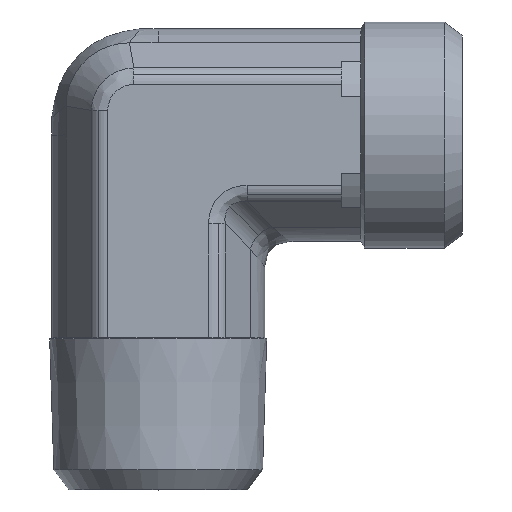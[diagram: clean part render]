
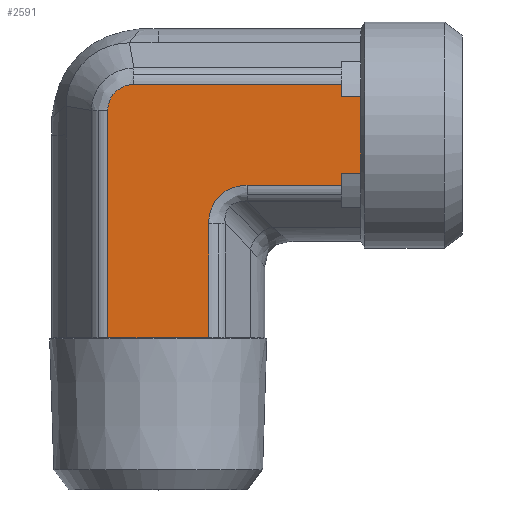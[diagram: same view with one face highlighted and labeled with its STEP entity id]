
A CAD part, top view. The second image highlights one B-rep face of the part: STEP entity #2591.
In plain terms, the highlighted planar face has unit normal (0, 0, 1) as drawn and (0, -1, 0) by its records, which use the part's own axes.
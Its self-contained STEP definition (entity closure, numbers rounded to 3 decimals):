
#361=CARTESIAN_POINT('',(2.515,-8.4,3.984));
#362=VERTEX_POINT('',#361);
#370=CARTESIAN_POINT('',(11.5,-8.4,3.984));
#371=VERTEX_POINT('',#370);
#372=CARTESIAN_POINT('',(2.515,-8.4,3.984));
#373=DIRECTION('',(1.0,0.0,0.0));
#374=VECTOR('',#373,8.985);
#375=LINE('',#372,#374);
#376=EDGE_CURVE('',#362,#371,#375,.T.);
#485=CARTESIAN_POINT('',(-8.484,-8.4,-1.926));
#486=VERTEX_POINT('',#485);
#494=CARTESIAN_POINT('',(-8.484,-8.4,14.5));
#495=VERTEX_POINT('',#494);
#496=CARTESIAN_POINT('',(-8.484,-8.4,-1.926));
#497=DIRECTION('',(0.0,0.0,1.0));
#498=VECTOR('',#497,16.426);
#499=LINE('',#496,#498);
#500=EDGE_CURVE('',#486,#495,#499,.T.);
#711=CARTESIAN_POINT('',(11.5,-8.4,0.));
#712=VERTEX_POINT('',#711);
#2007=CARTESIAN_POINT('',(-0.516,-8.4,14.5));
#2008=VERTEX_POINT('',#2007);
#2009=CARTESIAN_POINT('',(-1.484,-8.4,14.5));
#2010=VERTEX_POINT('',#2009);
#2011=CARTESIAN_POINT('',(-0.516,-8.4,14.5));
#2012=DIRECTION('',(-1.0,0.0,0.0));
#2013=VECTOR('',#2012,0.968);
#2014=LINE('',#2011,#2013);
#2015=EDGE_CURVE('',#2008,#2010,#2014,.T.);
#2066=CARTESIAN_POINT('',(-7.516,-8.4,14.5));
#2067=VERTEX_POINT('',#2066);
#2068=CARTESIAN_POINT('',(-7.516,-8.4,14.5));
#2069=DIRECTION('',(-1.0,0.0,0.0));
#2070=VECTOR('',#2069,0.968);
#2071=LINE('',#2068,#2070);
#2072=EDGE_CURVE('',#2067,#495,#2071,.T.);
#2171=CARTESIAN_POINT('',(-1.484,-8.4,16.0));
#2172=VERTEX_POINT('',#2171);
#2173=CARTESIAN_POINT('',(-1.484,-8.4,14.5));
#2174=DIRECTION('',(0.0,0.0,1.0));
#2175=VECTOR('',#2174,1.5);
#2176=LINE('',#2173,#2175);
#2177=EDGE_CURVE('',#2010,#2172,#2176,.T.);
#2212=CARTESIAN_POINT('',(-7.516,-8.4,16.0));
#2213=VERTEX_POINT('',#2212);
#2214=CARTESIAN_POINT('',(-7.516,-8.4,16.0));
#2215=DIRECTION('',(0.0,0.0,-1.0));
#2216=VECTOR('',#2215,1.5);
#2217=LINE('',#2214,#2216);
#2218=EDGE_CURVE('',#2213,#2067,#2217,.T.);
#2497=CARTESIAN_POINT('',(-4.5,-8.4,16.0));
#2498=VERTEX_POINT('',#2497);
#2499=CARTESIAN_POINT('',(-4.5,-8.4,16.0));
#2500=DIRECTION('',(-1.0,0.0,0.0));
#2501=VECTOR('',#2500,3.016);
#2502=LINE('',#2499,#2501);
#2503=EDGE_CURVE('',#2498,#2213,#2502,.T.);
#2521=CARTESIAN_POINT('',(-4.5,-8.4,-3.175));
#2522=DIRECTION('',(0.0,-1.0,0.0));
#2523=DIRECTION('',(0.0,0.0,-1.0));
#2524=AXIS2_PLACEMENT_3D('',#2521,#2522,#2523);
#2525=PLANE('',#2524);
#2526=ORIENTED_EDGE('',*,*,#2218,.T.);
#2527=ORIENTED_EDGE('',*,*,#2072,.T.);
#2528=ORIENTED_EDGE('',*,*,#500,.F.);
#2529=CARTESIAN_POINT('',(-6.426,-8.4,-3.984));
#2530=VERTEX_POINT('',#2529);
#2531=CARTESIAN_POINT('',(-8.484,-8.4,-1.926));
#2532=CARTESIAN_POINT('',(-8.484,-8.4,-2.06));
#2533=CARTESIAN_POINT('',(-8.47,-8.4,-2.195));
#2534=CARTESIAN_POINT('',(-8.402,-8.4,-2.54));
#2535=CARTESIAN_POINT('',(-8.326,-8.4,-2.743));
#2536=CARTESIAN_POINT('',(-8.051,-8.4,-3.233));
#2537=CARTESIAN_POINT('',(-7.806,-8.4,-3.49));
#2538=CARTESIAN_POINT('',(-7.186,-8.4,-3.876));
#2539=CARTESIAN_POINT('',(-6.806,-8.4,-3.984));
#2540=CARTESIAN_POINT('',(-6.426,-8.4,-3.984));
#2541=B_SPLINE_CURVE_WITH_KNOTS('',3,(#2531,#2532,#2533,#2534,#2535,#2536,#2537,#2538,#2539,#2540),.UNSPECIFIED.,.F.,.U.,(4,2,2,2,4),(-3.216,-2.814,-2.171,-1.142,0.0),.UNSPECIFIED.);
#2542=EDGE_CURVE('',#2530,#486,#2541,.F.);
#2543=ORIENTED_EDGE('',*,*,#2542,.F.);
#2544=CARTESIAN_POINT('',(11.5,-8.4,-3.984));
#2545=VERTEX_POINT('',#2544);
#2546=CARTESIAN_POINT('',(11.5,-8.4,-3.984));
#2547=DIRECTION('',(-1.0,0.0,0.0));
#2548=VECTOR('',#2547,17.926);
#2549=LINE('',#2546,#2548);
#2550=EDGE_CURVE('',#2545,#2530,#2549,.T.);
#2551=ORIENTED_EDGE('',*,*,#2550,.F.);
#2552=CARTESIAN_POINT('',(11.5,-8.4,-3.984));
#2553=DIRECTION('',(0.0,0.0,1.0));
#2554=VECTOR('',#2553,3.984);
#2555=LINE('',#2552,#2554);
#2556=EDGE_CURVE('',#2545,#712,#2555,.T.);
#2557=ORIENTED_EDGE('',*,*,#2556,.T.);
#2558=CARTESIAN_POINT('',(11.5,-8.4,0.));
#2559=DIRECTION('',(0.0,0.0,1.0));
#2560=VECTOR('',#2559,3.984);
#2561=LINE('',#2558,#2560);
#2562=EDGE_CURVE('',#712,#371,#2561,.T.);
#2563=ORIENTED_EDGE('',*,*,#2562,.T.);
#2564=ORIENTED_EDGE('',*,*,#376,.F.);
#2565=CARTESIAN_POINT('',(-0.516,-8.4,7.015));
#2566=VERTEX_POINT('',#2565);
#2567=CARTESIAN_POINT('',(3.525,-8.4,8.025));
#2568=DIRECTION('',(0.,-1.,0.));
#2569=DIRECTION('',(-0.707,0.,-0.707));
#2570=AXIS2_PLACEMENT_3D('',#2567,#2568,#2569);
#2571=ELLIPSE('',#2570,4.518,3.5);
#2572=EDGE_CURVE('',#2566,#362,#2571,.T.);
#2573=ORIENTED_EDGE('',*,*,#2572,.F.);
#2574=CARTESIAN_POINT('',(-0.516,-8.4,14.5));
#2575=DIRECTION('',(0.0,0.0,-1.0));
#2576=VECTOR('',#2575,7.485);
#2577=LINE('',#2574,#2576);
#2578=EDGE_CURVE('',#2008,#2566,#2577,.T.);
#2579=ORIENTED_EDGE('',*,*,#2578,.F.);
#2580=ORIENTED_EDGE('',*,*,#2015,.T.);
#2581=ORIENTED_EDGE('',*,*,#2177,.T.);
#2582=CARTESIAN_POINT('',(-1.484,-8.4,16.0));
#2583=DIRECTION('',(-1.0,0.0,0.0));
#2584=VECTOR('',#2583,3.016);
#2585=LINE('',#2582,#2584);
#2586=EDGE_CURVE('',#2172,#2498,#2585,.T.);
#2587=ORIENTED_EDGE('',*,*,#2586,.T.);
#2588=ORIENTED_EDGE('',*,*,#2503,.T.);
#2589=EDGE_LOOP('',(#2526,#2527,#2528,#2543,#2551,#2557,#2563,#2564,#2573,#2579,#2580,#2581,#2587,#2588));
#2590=FACE_OUTER_BOUND('',#2589,.T.);
#2591=ADVANCED_FACE('',(#2590),#2525,.T.);
